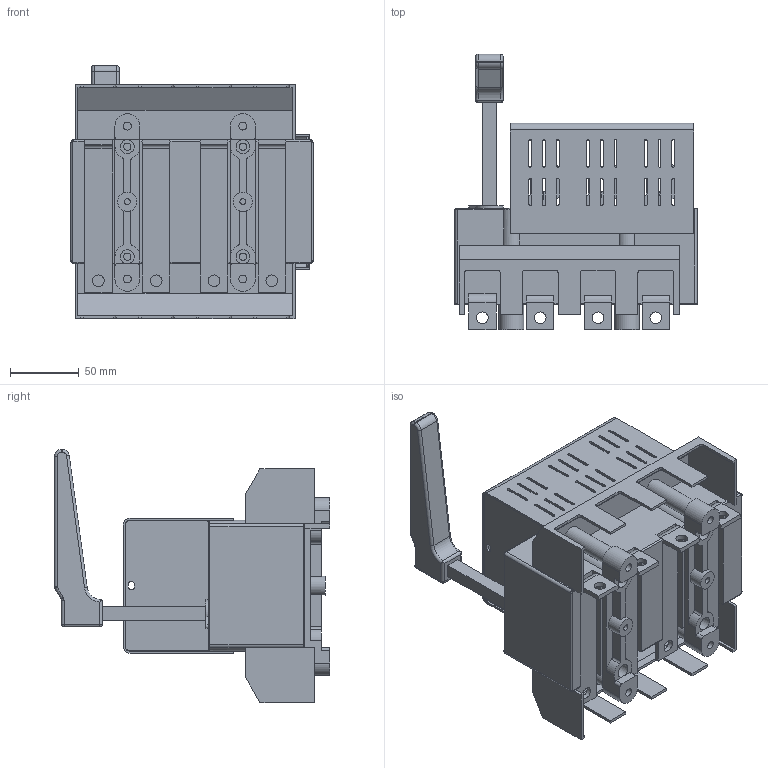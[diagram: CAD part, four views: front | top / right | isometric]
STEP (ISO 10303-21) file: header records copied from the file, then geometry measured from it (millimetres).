
FILE_DESCRIPTION(/* description */ (''),/* implementation_level */ '2;1');
FILE_NAME(/* name */ 'RAB 00 P3 NA-R z oslona zaciskow.stp',/* time_stamp */ '2021-08-19T11:06:59+02:00',/* author */ (''),/* organization */ (''),/* preprocessor_version */ 'ST-DEVELOPER v18.1',/* originating_system */ 'SIEMENS PLM Software NX 1965',/* authorisation */ '');
FILE_SCHEMA (('AUTOMOTIVE_DESIGN { 1 0 10303 214 3 1 1 1 }'));
Length unit declared in the file: millimetre
Products named in the file (1): RAB 00 P3 NA-R z oslona zaciskow
Bounding box: 176 x 200 x 183.9 mm (x, y, z)
Volume: 1363619.6 mm3; surface area: 291936.3 mm2
Topology: 1 solids, 1 shells, 1004 faces, 2860 edges, 1881 vertices
Faces by surface type: plane 627, cylinder 355, torus 10, bspline 6, sphere 6
Full cylindrical faces by diameter (mm): 2.7 x4, 4.3 x2, 5 x6, 5.3 x4, 5.8 x4, 8.5 x8, 10 x12, 13 x4, 14 x2
Entity records: 32605 total; most frequent: CARTESIAN_POINT 5919, ORIENTED_EDGE 5532, DIRECTION 5488, EDGE_CURVE 2766, LINE 1994, VECTOR 1994, VERTEX_POINT 1822, AXIS2_PLACEMENT_3D 1747
